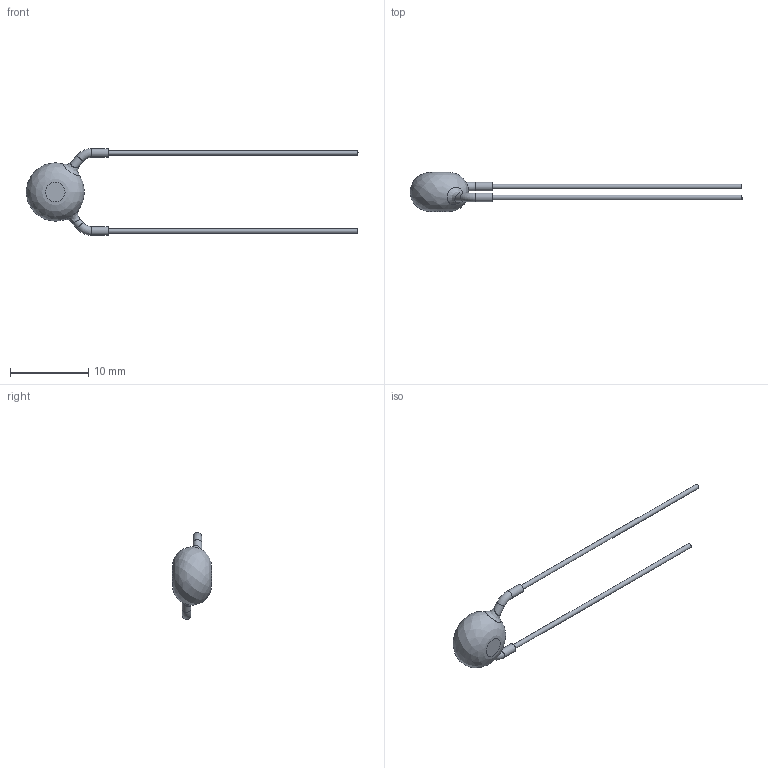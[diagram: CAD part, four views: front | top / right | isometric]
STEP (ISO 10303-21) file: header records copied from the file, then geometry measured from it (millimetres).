
FILE_DESCRIPTION((''),'2;1');
FILE_NAME('I:\Marketing\M6t1\3D-Models\Zchng-Werk-3\Upload for homepage\BCC\AY2\U2J-10mm\AY2330K29U2JS63L0\AY2330K29U2JS63L0.stp','2015-09-09T08:06:38',(''),(''),'Autodesk Inventor 2013','Autodesk Inventor 2013','');
FILE_SCHEMA(('AUTOMOTIVE_DESIGN { 1 0 10303 214 1 1 1 1 }'));
Length unit declared in the file: centimetre
Products named in the file (1): AY2330K29U2JS63L0
Bounding box: 42.5 x 5 x 11.1 mm (x, y, z)
Volume: 196.4 mm3; surface area: 307.9 mm2
Topology: 1 solids, 1 shells, 17 faces, 31 edges, 20 vertices
Faces by surface type: cylinder 6, plane 6, bspline 3, torus 2
Full cylindrical faces by diameter (mm): 0.6 x2, 1.1 x4
Entity records: 654 total; most frequent: CARTESIAN_POINT 325, DIRECTION 58, ORIENTED_EDGE 36, EDGE_LOOP 30, AXIS2_PLACEMENT_3D 29, EDGE_CURVE 18, STYLED_ITEM 18, FACE_OUTER_BOUND 17
